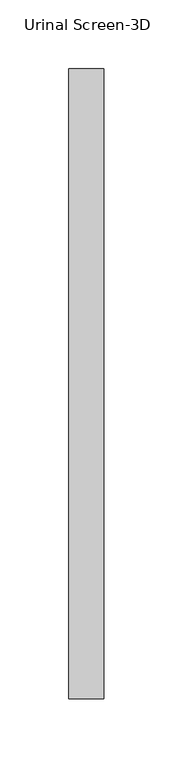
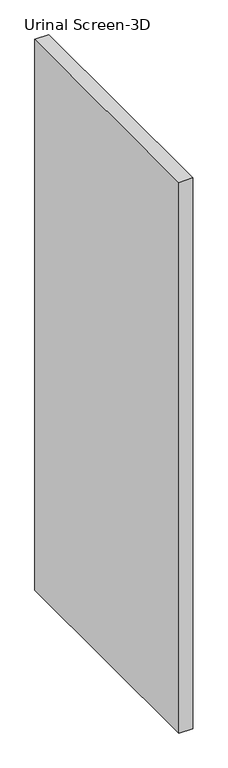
"""IFC4 building model written with IfcOpenShell, lengths in millimetres: proxy geometry."""

import ifcopenshell
import ifcopenshell.guid

model = None  # the IFC model being written
_history = None  # IfcOwnerHistory: only IFC2X3 demands one
_inside = {}  # id of a spatial element -> (the spatial element, [elements in it])
_under = {}  # id of a project, library or spatial element -> (it, [spatial elements below it])
_declared = {}  # id of a project -> (the project, [libraries it declares])
_typed = {}  # id of a type object -> (the type object, [elements of that type])
_made_of = {}  # id of a material, layer set ... -> (it, [elements and type objects made of it])


def new_model(schema):
    """Start an empty IFC model of exactly this schema.

    Asked for "IFC4X3", IfcOpenShell would pick the latest addendum, in which some entities
    have other attributes; the version numbers below select the first issue.
    IFC2X3 requires an IfcOwnerHistory on every rooted entity: one is made here for all.
    """
    global model, _history
    if schema == "IFC4X3":
        model = ifcopenshell.file(schema_version=(4, 3, 0, 0))
    else:
        model = ifcopenshell.file(schema=schema)
    _inside.clear()
    _under.clear()
    _declared.clear()
    _typed.clear()
    _made_of.clear()
    _history = None
    if model.schema == "IFC2X3":
        org = make("IfcOrganization", Name="unknown")
        user = make(
            "IfcPersonAndOrganization",
            ThePerson=make("IfcPerson", FamilyName="unknown"),
            TheOrganization=org,
        )
        app = make(
            "IfcApplication",
            ApplicationDeveloper=org,
            Version="unknown",
            ApplicationFullName="unknown",
            ApplicationIdentifier="unknown",
        )
        _history = make(
            "IfcOwnerHistory",
            OwningUser=user,
            OwningApplication=app,
            ChangeAction="ADDED",
            CreationDate=0,
        )
    return model


def make(cls, **values):
    """One entity of the class cls with the attributes given. An attribute that is None is left unset."""
    return model.create_entity(
        cls, **{name: value for name, value in values.items() if value is not None}
    )


def rooted(cls, **values):
    """An entity with a GlobalId (a new one), such as an element, a storey or a relation."""
    return make(cls, GlobalId=ifcopenshell.guid.new(), OwnerHistory=_history, **values)


def si_unit(unit_type, name, prefix=None):
    """IfcSIUnit, for example si_unit("LENGTHUNIT", "METRE", prefix="MILLI")."""
    return make("IfcSIUnit", UnitType=unit_type, Prefix=prefix, Name=name)


def assignment(units):
    """IfcUnitAssignment: the units of a project."""
    return None if units is None else make("IfcUnitAssignment", Units=units)


def point(xyz):
    """IfcCartesianPoint."""
    return None if xyz is None else make("IfcCartesianPoint", Coordinates=xyz)


def direction(xyz):
    """IfcDirection."""
    return None if xyz is None else make("IfcDirection", DirectionRatios=xyz)


def frame(location, z_axis=None, x_axis=None):
    """IfcAxis2Placement3D, a coordinate frame: its origin and axes. An axis left out is left unset."""
    return make(
        "IfcAxis2Placement3D",
        Location=point(location),
        Axis=direction(z_axis),
        RefDirection=direction(x_axis),
    )


def origin():
    """The frame at (0, 0, 0) with its axes left unset."""
    return frame((0.0, 0.0, 0.0))


def place(relative_to, where):
    """IfcLocalPlacement: puts the frame where relative to a parent placement (None: the world)."""
    return make(
        "IfcLocalPlacement", PlacementRelTo=relative_to, RelativePlacement=where
    )


def context(
    kind, dimensions, precision=None, world=None, true_north=None, identifier=None
):
    """IfcGeometricRepresentationContext, for example the 3D "Model" context."""
    return make(
        "IfcGeometricRepresentationContext",
        ContextIdentifier=identifier,
        ContextType=kind,
        CoordinateSpaceDimension=dimensions,
        Precision=precision,
        WorldCoordinateSystem=world,
        TrueNorth=true_north,
    )


def project(units=None, contexts=None):
    """IfcProject with its units and contexts."""
    return rooted(
        "IfcProject",
        Name="project",
        RepresentationContexts=contexts,
        UnitsInContext=assignment(units),
    )


def spatial(cls, under=None, at=None, **own):
    """A site, building, storey or space (cls), placed at a placement, below another one or the project."""
    s = rooted(cls, ObjectPlacement=at, **own)
    if under is not None:
        _under.setdefault(under.id(), (under, []))[1].append(s)
    return s


def polyline(points):
    """IfcPolyline through the points."""
    return make("IfcPolyline", Points=[point(p) for p in points])


def outline(outer, holes=None, kind="AREA"):
    """IfcArbitraryClosedProfileDef: a profile drawn as a closed curve; with holes, ...WithVoids."""
    if holes is None:
        return make("IfcArbitraryClosedProfileDef", ProfileType=kind, OuterCurve=outer)
    return make(
        "IfcArbitraryProfileDefWithVoids",
        ProfileType=kind,
        OuterCurve=outer,
        InnerCurves=holes,
    )


def extrude(swept, where, along, depth):
    """IfcExtrudedAreaSolid: the profile swept, set in the frame where, extruded along a direction by depth."""
    return make(
        "IfcExtrudedAreaSolid",
        SweptArea=swept,
        Position=where,
        ExtrudedDirection=direction(along),
        Depth=depth,
    )


def shape(context_of_items, identifier, shape_type, items):
    """IfcShapeRepresentation: the items that make up one representation, for example the "Body"."""
    return make(
        "IfcShapeRepresentation",
        ContextOfItems=context_of_items,
        RepresentationIdentifier=identifier,
        RepresentationType=shape_type,
        Items=items,
    )


def source(mapping_origin, context_of_items, identifier, shape_type, items):
    """IfcRepresentationMap: a shape defined once, which mapped items show again and again."""
    return make(
        "IfcRepresentationMap",
        MappingOrigin=mapping_origin,
        MappedRepresentation=shape(context_of_items, identifier, shape_type, items),
    )


def transform(
    local_origin,
    x_axis=None,
    y_axis=None,
    z_axis=None,
    scale=None,
    scale2=None,
    scale3=None,
    uniform=True,
):
    """IfcCartesianTransformationOperator3D, or its non-uniform kind. x_axis, y_axis, z_axis: its Axis1, 2, 3."""
    if uniform:
        return make(
            "IfcCartesianTransformationOperator3D",
            Axis1=direction(x_axis),
            Axis2=direction(y_axis),
            LocalOrigin=point(local_origin),
            Scale=scale,
            Axis3=direction(z_axis),
        )
    return make(
        "IfcCartesianTransformationOperator3DnonUniform",
        Axis1=direction(x_axis),
        Axis2=direction(y_axis),
        LocalOrigin=point(local_origin),
        Scale=scale,
        Axis3=direction(z_axis),
        Scale2=scale2,
        Scale3=scale3,
    )


def mapped(mapping_source, mapping_target):
    """IfcMappedItem: shows the shape of a source again, moved by a transform."""
    return make(
        "IfcMappedItem", MappingSource=mapping_source, MappingTarget=mapping_target
    )


def made_of(thing, what):
    """Note that an element or type object is made of a material, layer set ...; save() writes the relation."""
    if what is not None:
        _made_of.setdefault(what.id(), (what, []))[1].append(thing)
    return thing


def element(
    cls,
    number,
    at=None,
    inside=None,
    cuts=None,
    type_object=None,
    material=None,
    context=None,
    identifier="Body",
    shape_type=None,
    held_by="IfcProductDefinitionShape",
    body=None,
    shapes=None,
    **own,
):
    """One element of the class cls, such as IfcWall. Its Tag is "e" and its number.

    at: its placement. inside: the storey or other place that contains it. cuts: it is an
    opening in that element (IfcRelVoidsElement). A single representation is given by context,
    identifier, shape_type and body (its items); several are given by shapes. held_by: the class
    of the entity that holds the representations. save() writes the other relations.
    """
    e = rooted(cls, Tag="e%d" % number, ObjectPlacement=at, **own)
    if body is not None:
        shapes = [shape(context, identifier, shape_type, body)]
    if shapes is not None:
        e.Representation = make(held_by, Representations=shapes)
    if inside is not None:
        _inside.setdefault(inside.id(), (inside, []))[1].append(e)
    if cuts is not None:
        rooted(
            "IfcRelVoidsElement", RelatingBuildingElement=cuts, RelatedOpeningElement=e
        )
    if type_object is not None:
        _typed.setdefault(type_object.id(), (type_object, []))[1].append(e)
    return made_of(e, material)


def aggregate(whole, parts):
    """IfcRelAggregates: a whole, such as a stair, and the parts it consists of."""
    return rooted("IfcRelAggregates", RelatingObject=whole, RelatedObjects=parts)


def save(model, path):
    """Write the relations noted so far, then the file.

    IfcRelAggregates (storeys below a building ...), IfcRelContainedInSpatialStructure (elements
    in a storey), IfcRelDefinesByType, IfcRelAssociatesMaterial and IfcRelDeclares: one each for
    every whole, place, type object, material and project.
    """
    for whole, parts in _under.values():
        aggregate(whole, parts)
    for where, things in _inside.values():
        rooted(
            "IfcRelContainedInSpatialStructure",
            RelatedElements=things,
            RelatingStructure=where,
        )
    for kind, things in _typed.values():
        rooted("IfcRelDefinesByType", RelatedObjects=things, RelatingType=kind)
    for what, things in _made_of.values():
        rooted("IfcRelAssociatesMaterial", RelatedObjects=things, RelatingMaterial=what)
    for by, libraries in _declared.values():
        rooted("IfcRelDeclares", RelatingContext=by, RelatedDefinitions=libraries)
    model.write(path)


def urinal_screen_3d_0714b669(model_context):
    return source(origin(), model_context, "Body", "SweptSolid", [
        extrude(outline(polyline([(12.7, 130.175), (-12.7, 130.175), (-12.7, 587.375), (12.7, 587.375), (12.7, 130.175)])), frame((0.0, 0.0, 355.6), z_axis=(0.0, 0.0, 1.0), x_axis=(1.0, 0.0, 0.0)), (0.0, 0.0, 1.0), 1066.8),
    ])


if __name__ == "__main__":
    model = new_model("IFC4")
    model_context = context("Model", 3, world=origin())
    ifc_project = project(units=[si_unit("LENGTHUNIT", "METRE", prefix="MILLI")], contexts=[model_context])
    site = spatial("IfcSite", under=ifc_project)
    building = spatial("IfcBuilding", under=site)
    placement = place(None, origin())
    urinal_screen_3d_shape = urinal_screen_3d_0714b669(model_context)
    element("IfcBuildingElementProxy", 1, Name="Urinal Screen-3D : 36\" O.C.", ObjectType="Urinal Screen-3D : 36\" O.C.", at=placement, inside=building, context=model_context, shape_type="MappedRepresentation", body=[
        mapped(urinal_screen_3d_shape, transform((0.0, 0.0, 0.0), x_axis=(1.0, 0.0, 0.0), y_axis=(0.0, 1.0, 0.0), z_axis=(0.0, 0.0, 1.0))),
    ])
    save(model, "model.ifc")
